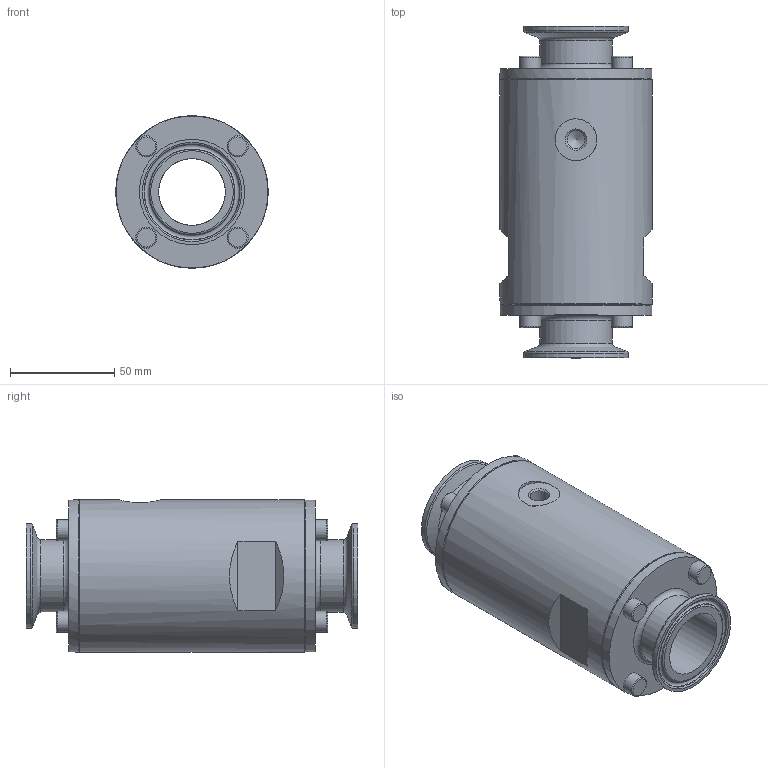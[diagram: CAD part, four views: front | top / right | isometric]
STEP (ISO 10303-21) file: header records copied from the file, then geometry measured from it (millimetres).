
FILE_DESCRIPTION(/* description */ (''),/* implementation_level */ '2;1');
FILE_NAME(/* name */ '88032.stp',/* time_stamp */ '2019-06-10T07:14:19+02:00',/* author */ (''),/* organization */ (''),/* preprocessor_version */ 'ST-DEVELOPER v16.7',/* originating_system */ 'SIEMENS PLM Software NX 12.0',/* authorisation */ '');
FILE_SCHEMA (('AUTOMOTIVE_DESIGN { 1 0 10303 214 3 1 1 1 }'));
Length unit declared in the file: millimetre
Products named in the file (1): Memd21BC7DCDv80t
Bounding box: 73 x 159 x 73 mm (x, y, z)
Volume: 412589.2 mm3; surface area: 61249.9 mm2
Topology: 1 solids, 9 shells, 126 faces, 263 edges, 171 vertices
Faces by surface type: cylinder 53, plane 39, torus 22, cone 12
Full cylindrical faces by diameter (mm): 8.611 x1, 10 x8, 32 x3, 35 x2, 50.5 x2, 73 x3
Entity records: 2936 total; most frequent: DIRECTION 574, CARTESIAN_POINT 474, ORIENTED_EDGE 366, AXIS2_PLACEMENT_3D 266, EDGE_LOOP 198, EDGE_CURVE 183, VERTEX_POINT 146, FACE_BOUND 135
